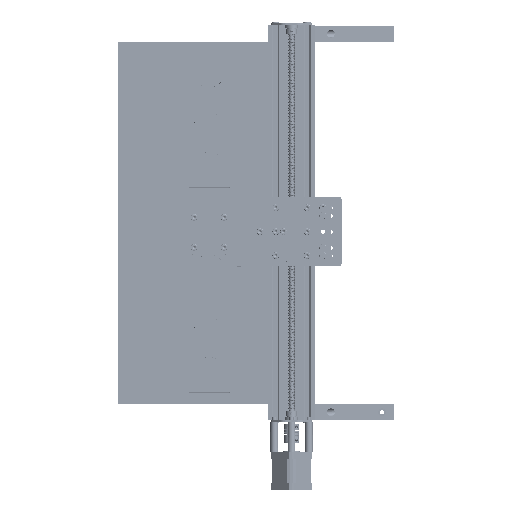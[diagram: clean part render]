
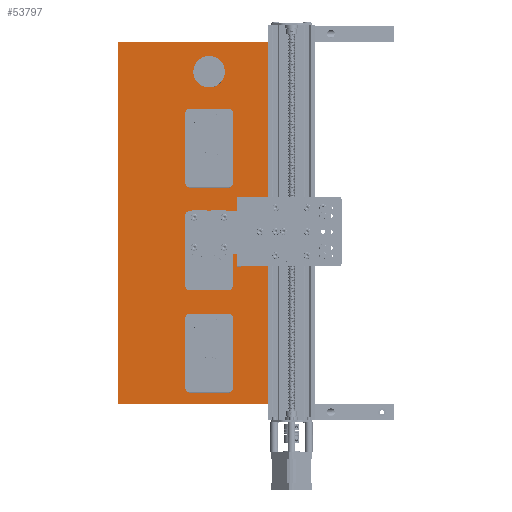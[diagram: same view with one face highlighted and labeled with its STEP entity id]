
A CAD part, top view. The second image highlights one B-rep face of the part: STEP entity #53797.
In plain terms, the highlighted planar face has unit normal (0, 0, 1) as drawn and (0, 0, -1) by its records, which use the part's own axes.
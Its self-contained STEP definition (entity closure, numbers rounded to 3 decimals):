
#9000=FACE_OUTER_BOUND('',#12479,.T.);
#12479=EDGE_LOOP('',(#44990,#44991,#44992,#44993));
#16508=LINE('',#88012,#20997);
#16511=LINE('',#88018,#21000);
#16514=LINE('',#88024,#21003);
#16517=LINE('',#88028,#21006);
#20997=VECTOR('',#71591,10.);
#21000=VECTOR('',#71596,10.);
#21003=VECTOR('',#71601,10.);
#21006=VECTOR('',#71606,10.);
#25736=VERTEX_POINT('',#88009);
#25737=VERTEX_POINT('',#88011);
#25739=VERTEX_POINT('',#88017);
#25741=VERTEX_POINT('',#88023);
#32442=EDGE_CURVE('',#25737,#25736,#16508,.T.);
#32445=EDGE_CURVE('',#25739,#25737,#16511,.T.);
#32448=EDGE_CURVE('',#25741,#25739,#16514,.T.);
#32451=EDGE_CURVE('',#25736,#25741,#16517,.T.);
#44990=ORIENTED_EDGE('',*,*,#32451,.T.);
#44991=ORIENTED_EDGE('',*,*,#32448,.T.);
#44992=ORIENTED_EDGE('',*,*,#32445,.T.);
#44993=ORIENTED_EDGE('',*,*,#32442,.T.);
#51451=PLANE('',#60083);
#53797=ADVANCED_FACE('',(#9000),#51451,.T.);
#60083=AXIS2_PLACEMENT_3D('',#88030,#71609,#71610);
#71591=DIRECTION('',(0.,1.,0.));
#71596=DIRECTION('',(-1.,0.,0.));
#71601=DIRECTION('',(0.,-1.,0.));
#71606=DIRECTION('',(1.,0.,0.));
#71609=DIRECTION('center_axis',(0.,0.,-1.));
#71610=DIRECTION('ref_axis',(-1.,0.,0.));
#88009=CARTESIAN_POINT('',(-30.,-10.,-10.));
#88011=CARTESIAN_POINT('',(-30.,-470.,-10.));
#88012=CARTESIAN_POINT('',(-30.,-10.,-10.));
#88017=CARTESIAN_POINT('',(220.,-470.,-10.));
#88018=CARTESIAN_POINT('',(-30.,-470.,-10.));
#88023=CARTESIAN_POINT('',(220.,-10.,-10.));
#88024=CARTESIAN_POINT('',(220.,-470.,-10.));
#88028=CARTESIAN_POINT('',(220.,-10.,-10.));
#88030=CARTESIAN_POINT('Origin',(95.,-240.,-10.));
